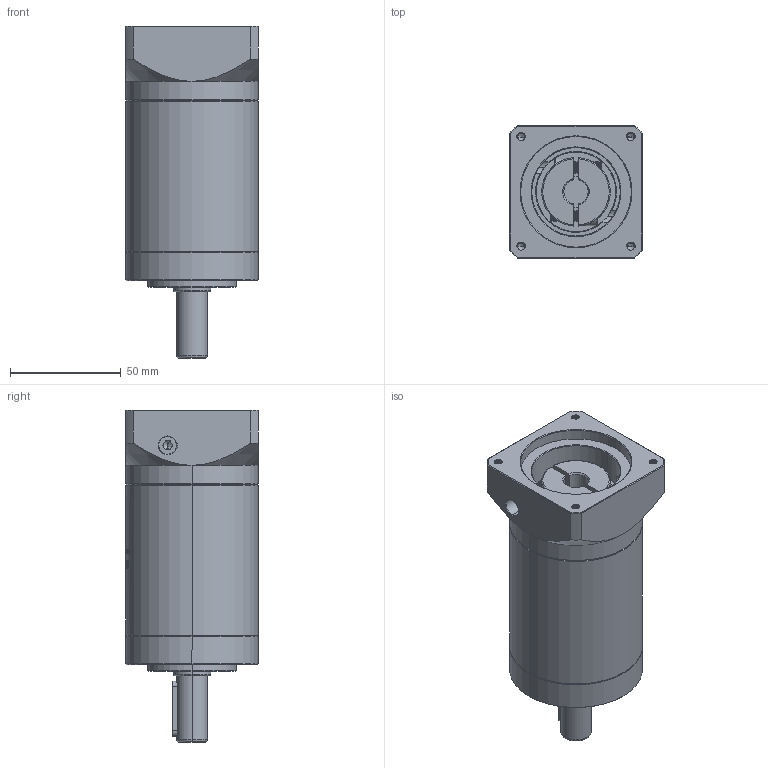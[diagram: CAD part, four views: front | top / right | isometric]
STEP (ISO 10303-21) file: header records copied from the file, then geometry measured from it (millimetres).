
FILE_DESCRIPTION (( 'STEP AP214' ), '1' );
FILE_NAME ('ZE60-D14-L3-11-50-70-M4.STEP', '2022-04-17T15:15:49', ( '' ), ( 'Microsoft' ), 'SwSTEP 2.0', 'SolidWorks 2016', '' );
FILE_SCHEMA (( 'AUTOMOTIVE_DESIGN' ));
Length unit declared in the file: millimetre
Products named in the file (1): ZE60-D14-L3-11-50-70-M4
Bounding box: 60 x 60 x 150 mm (x, y, z)
Volume: 312432.3 mm3; surface area: 49190.7 mm2
Topology: 6 solids, 6 shells, 1706 faces, 4641 edges, 3007 vertices
Faces by surface type: plane 732, cylinder 423, bspline 311, cone 220, torus 20
Entity records: 100002 total; most frequent: CARTESIAN_POINT 42565, ORIENTED_EDGE 9238, DIRECTION 6590, EDGE_CURVE 4619, VERTEX_POINT 3007, LINE 2300, VECTOR 2300, AXIS2_PLACEMENT_3D 2145
